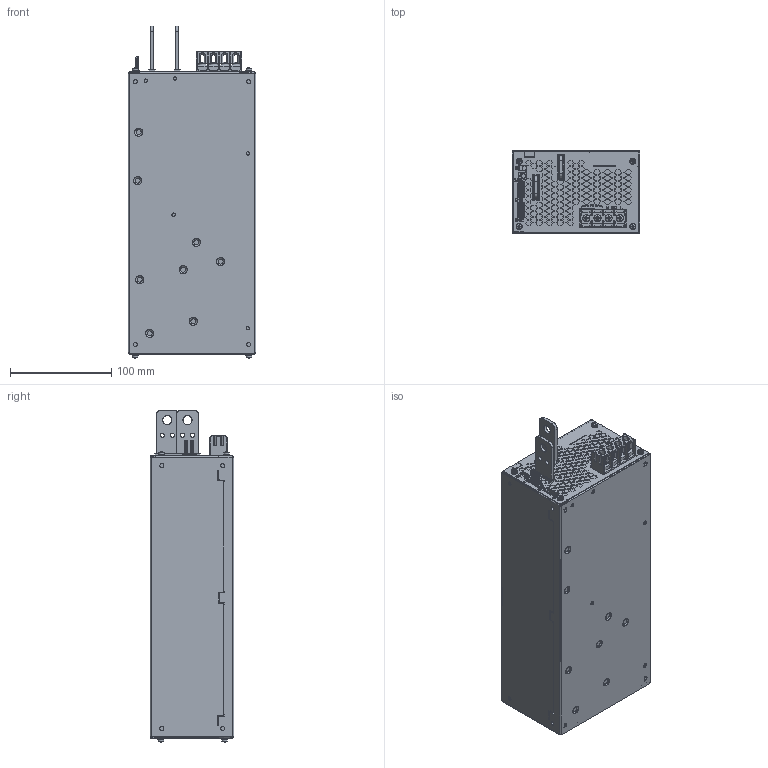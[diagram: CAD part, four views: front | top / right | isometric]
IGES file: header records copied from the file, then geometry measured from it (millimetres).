
Start section: SolidWorks IGES file using analytic representation for surfaces
Global section: file name: C:\HWS1500_OUTLINE.IGS; native system: SolidWorks 2006 by SolidWorks Corporation; preprocessor: SolidWorks 2006 by SolidWorks Corporation; author: 3444matsunaga; date: 060915.165932; units: millimetre
Bounding box: 126.5 x 82.5 x 328.35 mm (x, y, z)
Surface area: 352187.1 mm2 (no closed solid volume)
Topology: 0 solids, 0 shells, 4749 faces, 37359 edges, 37318 vertices
Faces by surface type: bspline 4098, revolution 651
